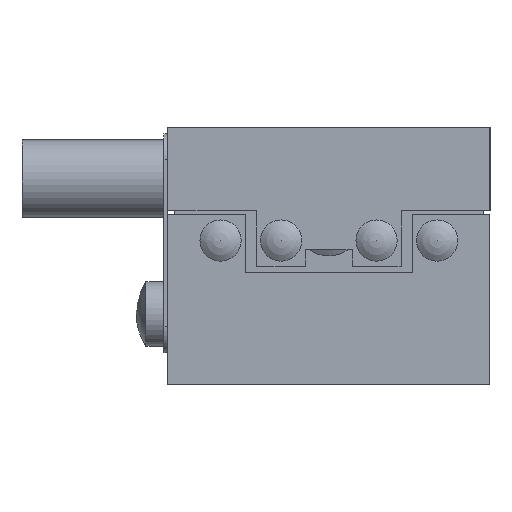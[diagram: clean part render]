
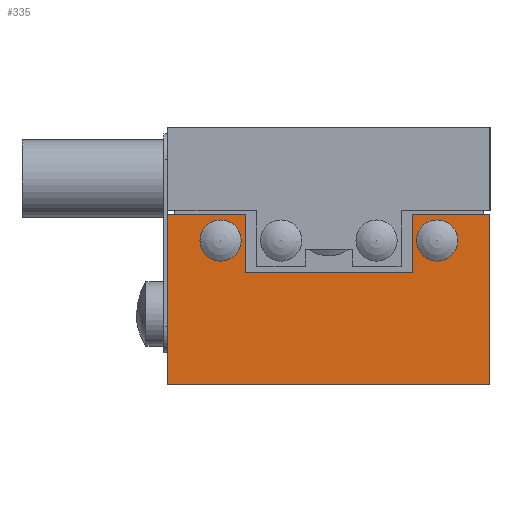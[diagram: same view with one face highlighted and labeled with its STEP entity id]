
A CAD part, left-side view. The second image highlights one B-rep face of the part: STEP entity #335.
In plain terms, the highlighted planar face has unit normal (-1, 0, 0).
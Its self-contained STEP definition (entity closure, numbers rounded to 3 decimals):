
#335 = ADVANCED_FACE( '', ( #763, #764, #765 ), #766, .T. );
#763 = FACE_OUTER_BOUND( '', #1238, .T. );
#764 = FACE_BOUND( '', #1239, .T. );
#765 = FACE_BOUND( '', #1240, .T. );
#766 = PLANE( '', #1241 );
#1238 = EDGE_LOOP( '', ( #2032, #2033, #2034, #2035, #2036, #2037, #2038, #2039 ) );
#1239 = EDGE_LOOP( '', ( #2040 ) );
#1240 = EDGE_LOOP( '', ( #2041 ) );
#1241 = AXIS2_PLACEMENT_3D( '', #2042, #2043, #2044 );
#2032 = ORIENTED_EDGE( '', *, *, #2301, .T. );
#2033 = ORIENTED_EDGE( '', *, *, #2312, .T. );
#2034 = ORIENTED_EDGE( '', *, *, #2514, .T. );
#2035 = ORIENTED_EDGE( '', *, *, #2562, .T. );
#2036 = ORIENTED_EDGE( '', *, *, #2448, .F. );
#2037 = ORIENTED_EDGE( '', *, *, #2440, .T. );
#2038 = ORIENTED_EDGE( '', *, *, #2495, .T. );
#2039 = ORIENTED_EDGE( '', *, *, #2563, .T. );
#2040 = ORIENTED_EDGE( '', *, *, #2290, .F. );
#2041 = ORIENTED_EDGE( '', *, *, #2427, .T. );
#2042 = CARTESIAN_POINT( '', ( -30., 0., 0. ) );
#2043 = DIRECTION( '', ( -1., 0., 0. ) );
#2044 = DIRECTION( '', ( 0., 1., 0. ) );
#2290 = EDGE_CURVE( '', #2644, #2644, #2645, .T. );
#2301 = EDGE_CURVE( '', #2664, #2662, #2665, .T. );
#2312 = EDGE_CURVE( '', #2662, #2681, #2683, .T. );
#2427 = EDGE_CURVE( '', #2873, #2873, #2874, .T. );
#2440 = EDGE_CURVE( '', #2886, #2893, #2895, .T. );
#2448 = EDGE_CURVE( '', #2886, #2906, #2907, .T. );
#2495 = EDGE_CURVE( '', #2893, #2974, #2976, .T. );
#2514 = EDGE_CURVE( '', #2681, #3000, #3002, .T. );
#2562 = EDGE_CURVE( '', #3000, #2906, #3065, .T. );
#2563 = EDGE_CURVE( '', #2974, #2664, #3066, .T. );
#2644 = VERTEX_POINT( '', #3163 );
#2645 = CIRCLE( '', #3164, 1.6 );
#2662 = VERTEX_POINT( '', #3184 );
#2664 = VERTEX_POINT( '', #3187 );
#2665 = LINE( '', #3188, #3189 );
#2681 = VERTEX_POINT( '', #3209 );
#2683 = LINE( '', #3212, #3213 );
#2873 = VERTEX_POINT( '', #3444 );
#2874 = CIRCLE( '', #3445, 1.6 );
#2886 = VERTEX_POINT( '', #3457 );
#2893 = VERTEX_POINT( '', #3468 );
#2895 = LINE( '', #3471, #3472 );
#2906 = VERTEX_POINT( '', #3484 );
#2907 = LINE( '', #3485, #3486 );
#2974 = VERTEX_POINT( '', #3575 );
#2976 = LINE( '', #3578, #3579 );
#3000 = VERTEX_POINT( '', #3611 );
#3002 = LINE( '', #3614, #3615 );
#3065 = LINE( '', #3690, #3691 );
#3066 = LINE( '', #3692, #3693 );
#3163 = CARTESIAN_POINT( '', ( -30., 8.4, 12.8 ) );
#3164 = AXIS2_PLACEMENT_3D( '', #3767, #3768, #3769 );
#3184 = CARTESIAN_POINT( '', ( -30., 6.5, 13.2 ) );
#3187 = CARTESIAN_POINT( '', ( -30., 6.5, 8.7 ) );
#3188 = CARTESIAN_POINT( '', ( -30., 6.5, 0. ) );
#3189 = VECTOR( '', #3783, 1000. );
#3209 = CARTESIAN_POINT( '', ( -30., 12.5, 13.2 ) );
#3212 = CARTESIAN_POINT( '', ( -30., 0., 13.2 ) );
#3213 = VECTOR( '', #3795, 1000. );
#3444 = CARTESIAN_POINT( '', ( -30., -8.4, 12.8 ) );
#3445 = AXIS2_PLACEMENT_3D( '', #3969, #3970, #3971 );
#3457 = CARTESIAN_POINT( '', ( -30., -12.5, 13.2 ) );
#3468 = CARTESIAN_POINT( '', ( -30., -6.5, 13.2 ) );
#3471 = CARTESIAN_POINT( '', ( -30., 0., 13.2 ) );
#3472 = VECTOR( '', #3986, 1000. );
#3484 = CARTESIAN_POINT( '', ( -30., -12.5, 0. ) );
#3485 = CARTESIAN_POINT( '', ( -30., -12.5, 0. ) );
#3486 = VECTOR( '', #3997, 1000. );
#3575 = CARTESIAN_POINT( '', ( -30., -6.5, 8.7 ) );
#3578 = CARTESIAN_POINT( '', ( -30., -6.5, 0. ) );
#3579 = VECTOR( '', #4054, 1000. );
#3611 = CARTESIAN_POINT( '', ( -30., 12.5, 0. ) );
#3614 = CARTESIAN_POINT( '', ( -30., 12.5, 0. ) );
#3615 = VECTOR( '', #4073, 1000. );
#3690 = CARTESIAN_POINT( '', ( -30., 0., 0. ) );
#3691 = VECTOR( '', #4128, 1000. );
#3692 = CARTESIAN_POINT( '', ( -30., 0., 8.7 ) );
#3693 = VECTOR( '', #4129, 1000. );
#3767 = CARTESIAN_POINT( '', ( -30., 8.4, 11.2 ) );
#3768 = DIRECTION( '', ( -1., 0., 0. ) );
#3769 = DIRECTION( '', ( 0., 0., 1. ) );
#3783 = DIRECTION( '', ( 0., 0., 1. ) );
#3795 = DIRECTION( '', ( 0., 1., 0. ) );
#3969 = CARTESIAN_POINT( '', ( -30., -8.4, 11.2 ) );
#3970 = DIRECTION( '', ( 1., 0., 0. ) );
#3971 = DIRECTION( '', ( 0., 0., 1. ) );
#3986 = DIRECTION( '', ( 0., 1., 0. ) );
#3997 = DIRECTION( '', ( 0., 0., -1. ) );
#4054 = DIRECTION( '', ( 0., 0., -1. ) );
#4073 = DIRECTION( '', ( 0., 0., -1. ) );
#4128 = DIRECTION( '', ( 0., -1., 0. ) );
#4129 = DIRECTION( '', ( 0., 1., 0. ) );
